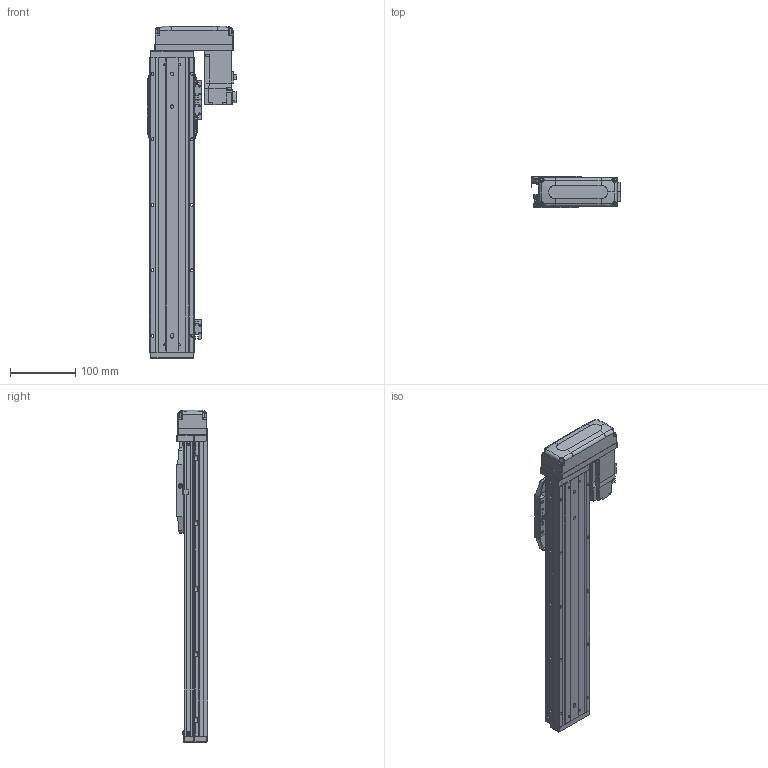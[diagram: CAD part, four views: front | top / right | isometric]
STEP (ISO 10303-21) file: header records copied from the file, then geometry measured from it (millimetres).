
FILE_DESCRIPTION (( 'STEP AP203' ), '1' );
FILE_NAME ('CTHA60-300-BL-M10-C4L.step', '2022-03-19T06:13:46', ( '微软用户' ), ( '微软中国' ), 'SwSTEP 2.0', 'SolidWorks 2020', '' );
FILE_SCHEMA (( 'CONFIG_CONTROL_DESIGN' ));
Length unit declared in the file: millimetre
Products named in the file (18): CTHA60-006-1; CTHA60-005; GBT 70.1-M3℅6; CTHA60-001_450; CTHA60-033; GB¨uT 70.2-M3¡Á6_M3¡Á6; GBT 70.3-M3℅6; CTHA60-004; CTHA60-300-BL-M10-C4L; EE_SX911P_R; CTHA60-016; CTHA60-017; HG-KR13（三菱）; CTHA60-021; CTHA60-002; GBT 70.1-M4×16; CTHA60-031; GBT77-2000 M3×3
Assembly tree (54 placements, depth 2):
  CTHA60-300-BL-M10-C4L
    CTHA60-001_450
    CTHA60-004
    CTHA60-005
    GB¨uT 70.2-M3¡Á6_M3¡Á6  x10
    EE_SX911P_R  x3
    CTHA60-017  x3
    CTHA60-021  x2
    GBT 70.1-M4×16  x10
    GBT77-2000 M3×3  x6
    GBT 70.1-M3℅6  x6
    GBT 70.3-M3℅6  x4
    CTHA60-016  x2
    HG-KR13（三菱）
    CTHA60-002
    CTHA60-031
    CTHA60-006-1
    CTHA60-033
Bounding box: 137.1 x 48 x 507 mm (x, y, z)
Volume: 977327 mm3; surface area: 306537.2 mm2
Topology: 56 solids, 56 shells, 2474 faces, 5925 edges, 3649 vertices
Faces by surface type: plane 1425, cylinder 565, cone 336, torus 92, bspline 32, sphere 24
Entity records: 43719 total; most frequent: CARTESIAN_POINT 8474, DIRECTION 6726, ORIENTED_EDGE 6658, EDGE_CURVE 3329, VECTOR 2358, LINE 2358, AXIS2_PLACEMENT_3D 2184, VERTEX_POINT 2108
